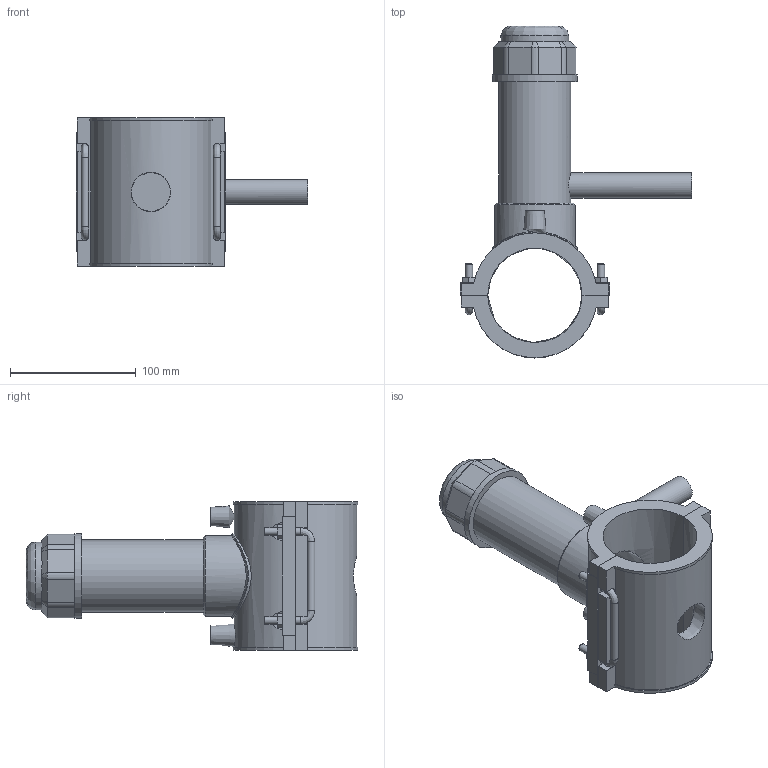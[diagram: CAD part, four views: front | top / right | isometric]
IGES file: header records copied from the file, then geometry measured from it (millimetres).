
Global section: file name: 496304075020.ipt; native system: Autodesk Inventor 2015; preprocessor: unknown; author: KIM; date: 20190124.130700; units: millimetre
Bounding box: 184.5 x 264.23 x 118 mm (x, y, z)
Volume: 652970.2 mm3; surface area: 158286.3 mm2
Topology: 2 solids, 2 shells, 192 faces, 495 edges, 323 vertices
Faces by surface type: plane 118, cylinder 34, revolution 20, cone 15, bspline 5
Full cylindrical faces by diameter (mm): 4 x2, 6 x10, 20 x1, 54 x1, 57.375 x1, 64.125 x1, 67.5 x2
